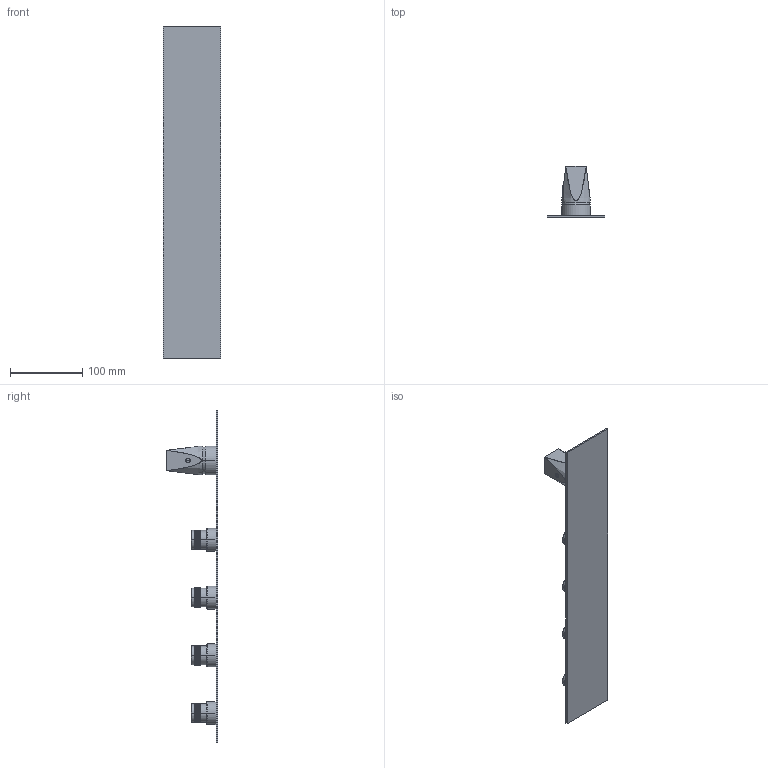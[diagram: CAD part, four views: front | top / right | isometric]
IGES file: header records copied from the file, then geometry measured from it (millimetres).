
Start section:  PTC IGES file: 49000V4.igs
Global section: file name: 49000V4.igs; native system: Creo Parametric by PTC Inc.; preprocessor: 2022014; author: carloff; organization: Unknown; date: 20230921.103047; units: millimetre
Bounding box: 80 x 70.7 x 460 mm (x, y, z)
Surface area: 97285.4 mm2 (no closed solid volume)
Topology: 0 solids, 0 shells, 6586 faces, 32820 edges, 32810 vertices
Faces by surface type: bspline 5151, revolution 1435
